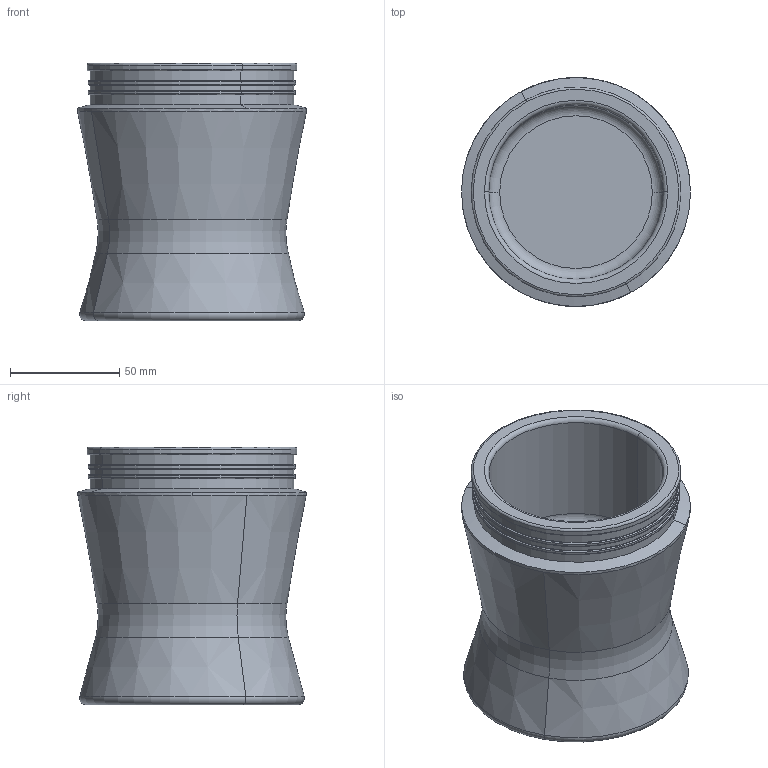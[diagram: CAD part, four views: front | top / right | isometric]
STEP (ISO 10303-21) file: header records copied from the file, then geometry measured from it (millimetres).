
FILE_DESCRIPTION(('CATIA V5 STEP Exchange'),'2;1');
FILE_NAME('G:\皮卡车架\STP\P01.300.10.03 后气囊下座.stp','2021-06-30T08:45:16+00:00',('none'),('none'),'CATIA Version 5 Release 21 GA (IN-10)','CATIA V5 STEP AP214','none');
FILE_SCHEMA(('AUTOMOTIVE_DESIGN { 1 0 10303 214 1 1 1 1 }'));
Length unit declared in the file: millimetre
Products named in the file (1): 后气囊下座
Bounding box: 105 x 104.98 x 118 mm (x, y, z)
Volume: 543349.8 mm3; surface area: 67835.7 mm2
Topology: 1 solids, 1 shells, 56 faces, 114 edges, 68 vertices
Faces by surface type: cylinder 20, torus 20, plane 10, cone 6
Entity records: 1338 total; most frequent: ORIENTED_EDGE 228, CARTESIAN_POINT 221, DIRECTION 190, AXIS2_PLACEMENT_3D 127, EDGE_CURVE 114, CIRCLE 88, VERTEX_POINT 68, EDGE_LOOP 64
